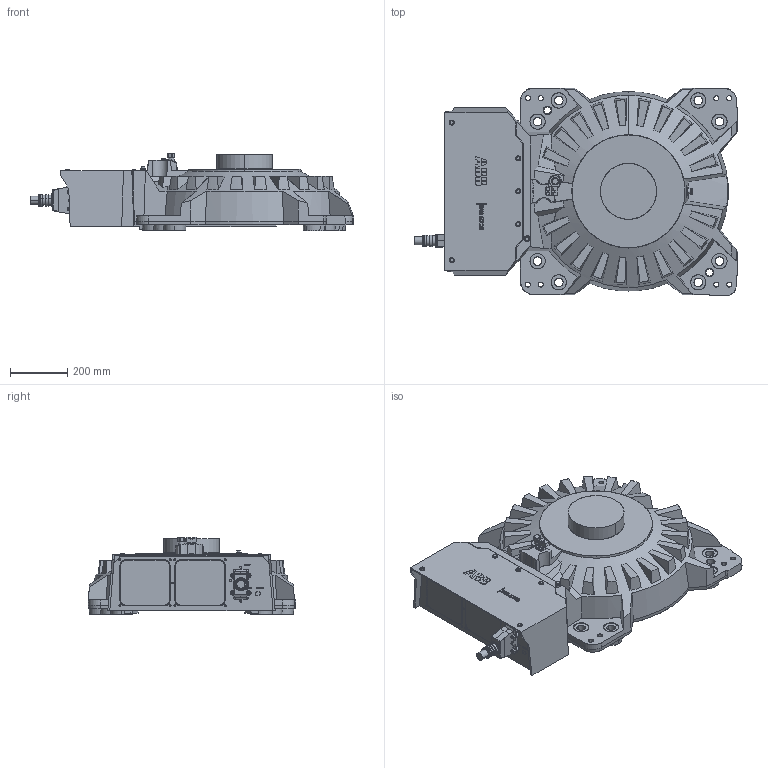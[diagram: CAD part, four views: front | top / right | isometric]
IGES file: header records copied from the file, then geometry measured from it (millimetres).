
Start section: SolidWorks IGES file using analytic representation for surfaces
Global section: file name: C:\Users\SEALDUN\OneDrive - ABB\Documents\R&D Robotics\Work Items\WI 632927\IGES\IRB5710-LID-SW_70kg-270_OC_02_IGES_J\IRB5710-LID_70kg-270_OC_00_BASE_CAD.igs; native system: SolidWorks 2024; preprocessor: SolidWorks 2024; author: SEALDUN; date: 250707.155220; units: millimetre
Bounding box: 1128.5 x 724 x 269.5 mm (x, y, z)
Surface area: 2209613.1 mm2 (no closed solid volume)
Topology: 0 solids, 0 shells, 1224 faces, 16955 edges, 16951 vertices
Faces by surface type: bspline 803, revolution 421
